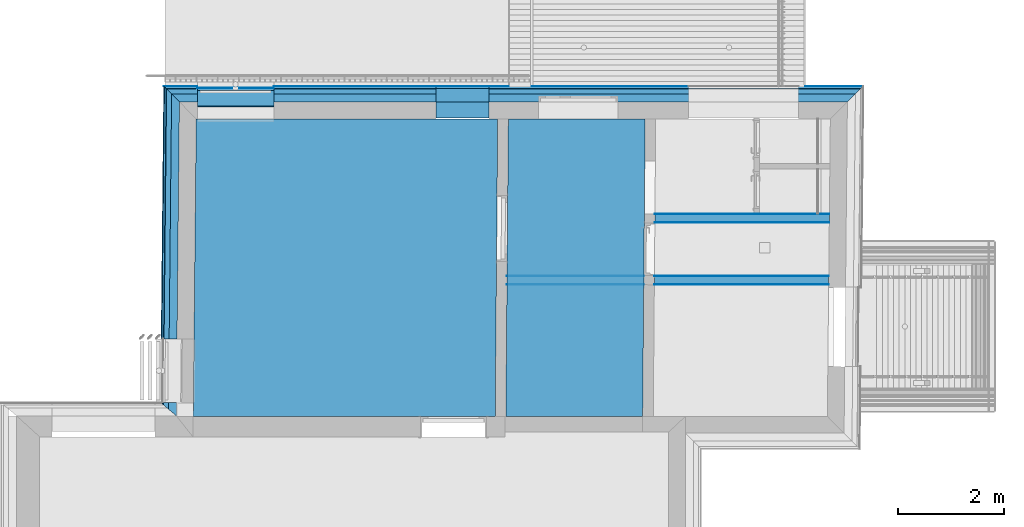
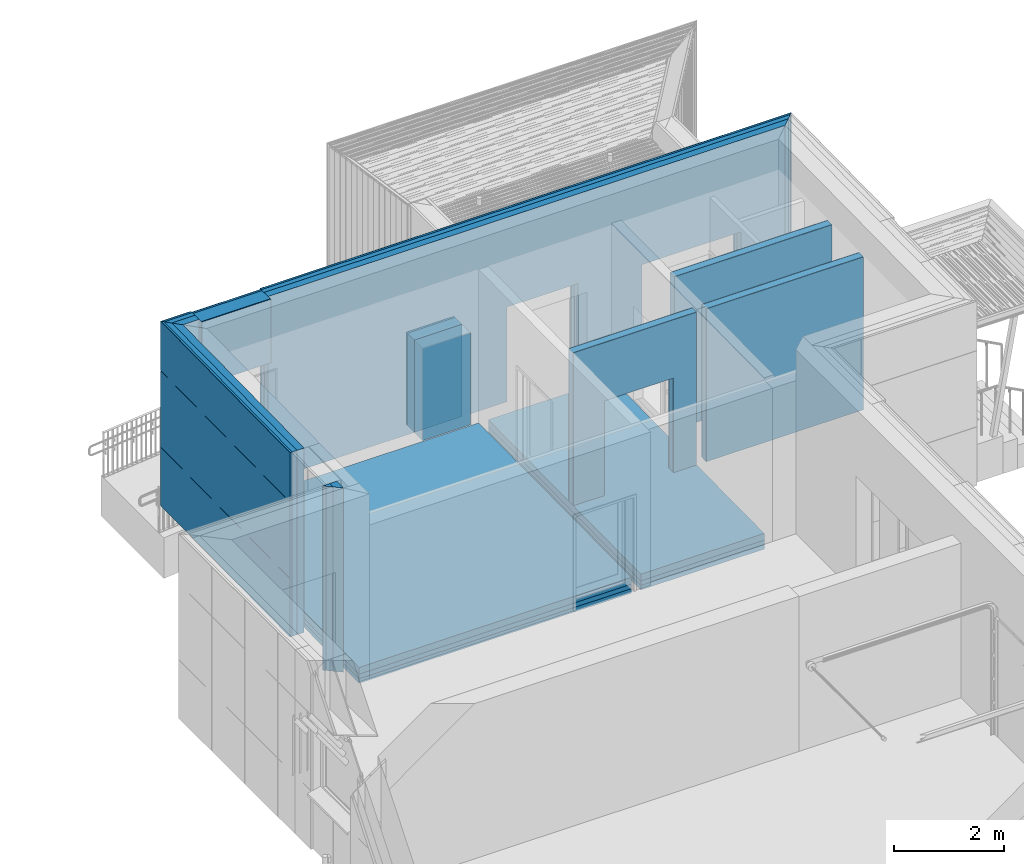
# One storey, part 53 of 418: 31 building element parts, 27 openings, 9 elements without a shape of their own.
"""IFC2X3 building model written with IfcOpenShell, lengths in millimetres."""

from ifc_helpers import new_model, entity, si_unit, converted_unit, derived_unit, money_unit, direction, frame, origin_with_axes, origin_2d_with_axis, place, context, subcontext, project, spatial, polyline, rectangle, outline, extrude, material, type_object, element, aggregate, save


model = new_model("IFC2X3")

# Units and contexts
model_context = context("Model", 3, precision=0.01, world=origin_with_axes(), true_north=direction((0.0, 1.0)))
body_context = subcontext(model_context, "Body", "Model", "MODEL_VIEW")
ifc_project = project(units=[si_unit("LENGTHUNIT", "METRE", prefix="MILLI"), si_unit("AREAUNIT", "SQUARE_METRE"), si_unit("VOLUMEUNIT", "CUBIC_METRE"), converted_unit("PLANEANGLEUNIT", "DEGREE", entity("IfcPlaneAngleMeasure", 0.0174532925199), si_unit("PLANEANGLEUNIT", "RADIAN"), dimensions=[0, 0, 0, 0, 0, 0, 0]), si_unit("SOLIDANGLEUNIT", "STERADIAN"), money_unit("EUR"), converted_unit("TIMEUNIT", "Year", entity("IfcTimeMeasure", 31556926.0), si_unit("TIMEUNIT", "SECOND"), dimensions=[0, 0, 1, 0, 0, 0, 0]), si_unit("MASSUNIT", "GRAM", prefix="KILO"), si_unit("THERMODYNAMICTEMPERATUREUNIT", "DEGREE_CELSIUS"), si_unit("LUMINOUSINTENSITYUNIT", "LUMEN"), si_unit("ENERGYUNIT", "JOULE", prefix="MEGA"), derived_unit("THERMALCONDUCTANCEUNIT", [(si_unit("POWERUNIT", "WATT"), 1), (si_unit("LENGTHUNIT", "METRE"), -1), (si_unit("THERMODYNAMICTEMPERATUREUNIT", "KELVIN"), -1)]), derived_unit("SPECIFICHEATCAPACITYUNIT", [(si_unit("ENERGYUNIT", "JOULE"), 1), (si_unit("MASSUNIT", "GRAM", prefix="KILO"), -1), (si_unit("THERMODYNAMICTEMPERATUREUNIT", "KELVIN"), -1)]), derived_unit("MASSDENSITYUNIT", [(si_unit("MASSUNIT", "GRAM", prefix="KILO"), 1), (si_unit("VOLUMEUNIT", "CUBIC_METRE"), -1)])], contexts=[model_context])

# Site, building, storey
site_placement = place(None, origin_with_axes())
site = spatial("IfcSite", under=ifc_project, at=site_placement, Name="Paldiski mnt 245/1, Tallinn, Harjumaa", CompositionType="COMPLEX")
building_placement = place(site_placement, origin_with_axes())
building = spatial("IfcBuilding", under=site, at=building_placement, Name="RKAS Hoone üldnimetus (kasutust iseloomustav) -> IFC Project Manager -> SOLIBRI", CompositionType="ELEMENT")
storey_placement = place(building_placement, origin_with_axes())
storey = spatial("IfcBuildingStorey", under=building, at=storey_placement, Name="Esimene korrus", CompositionType="ELEMENT", Elevation=0.0)

# Wall, openings, building element parts
wall_type_1 = type_object("IfcWallType", Name="VS-03C_uued_kihid 300", PredefinedType="NOTDEFINED")
wall_1_placement = place(storey_placement, frame((-59646.0974385, 36089.8287244, 0.0), z_axis=(0.0, 0.0, 1.0), x_axis=(1.0, 0.0, 0.0)))
wall_1 = element("IfcWall", 1, at=wall_1_placement, inside=storey, type_object=wall_type_1, Name="VS-03")
opening_1_placement = place(wall_1_placement, frame((2986.7901126, 0.0, 0.0), z_axis=(0.0, 0.0, 1.0), x_axis=(1.0, 0.0, 0.0)))
element("IfcOpeningElement", 2, at=opening_1_placement, cuts=wall_1, Name="Cembrit fassaadiplaadi vuuk", context=body_context, shape_type="SweptSolid", body=[
    extrude(outline(polyline([(-4.0, 0.0), (4.0, 0.0), (4.0, 4090.0), (-4.0, 4090.0), (-4.0, 0.0)])), frame((0.0, 292.0, 0.0), z_axis=(0.0, -1.0, 0.0), x_axis=(1.0, 0.0, 0.0)), (0.0, 0.0, -1.0), 308.0),
])
opening_2_placement = place(wall_1_placement, frame((4186.7901126, 0.0, 0.0), z_axis=(0.0, 0.0, 1.0), x_axis=(1.0, 0.0, 0.0)))
element("IfcOpeningElement", 3, at=opening_2_placement, cuts=wall_1, Name="Cembrit fassaadiplaadi vuuk", context=body_context, shape_type="SweptSolid", body=[
    extrude(outline(polyline([(-4.0, 0.0), (4.0, 0.0), (4.0, 4090.0), (-4.0, 4090.0), (-4.0, 0.0)])), frame((0.0, 292.0, 0.0), z_axis=(0.0, -1.0, 0.0), x_axis=(1.0, 0.0, 0.0)), (0.0, 0.0, -1.0), 308.0),
])
opening_3_placement = place(wall_1_placement, frame((5386.7901126, -1.27897692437e-10, 0.0), z_axis=(0.0, 0.0, 1.0), x_axis=(1.0, 0.0, 0.0)))
element("IfcOpeningElement", 4, at=opening_3_placement, cuts=wall_1, Name="Cembrit fassaadiplaadi vuuk", context=body_context, shape_type="SweptSolid", body=[
    extrude(outline(polyline([(-4.0, 0.0), (4.0, 0.0), (4.0, 4090.0), (-4.0, 4090.0), (-4.0, 0.0)])), frame((0.0, 292.0, 0.0), z_axis=(0.0, -1.0, 0.0), x_axis=(1.0, 0.0, 0.0)), (0.0, 0.0, -1.0), 308.0),
])
opening_4_placement = place(wall_1_placement, frame((6586.7901126, -1.56319401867e-10, 0.0), z_axis=(0.0, 0.0, 1.0), x_axis=(1.0, 0.0, 0.0)))
element("IfcOpeningElement", 5, at=opening_4_placement, cuts=wall_1, Name="Cembrit fassaadiplaadi vuuk", context=body_context, shape_type="SweptSolid", body=[
    extrude(outline(polyline([(-4.0, 0.0), (4.0, 0.0), (4.0, 4090.0), (-4.0, 4090.0), (-4.0, 0.0)])), frame((0.0, 292.0, 0.0), z_axis=(0.0, -1.0, 0.0), x_axis=(1.0, 0.0, 0.0)), (0.0, 0.0, -1.0), 308.0),
])
opening_5_placement = place(wall_1_placement, frame((7786.7901126, -1.84741111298e-10, 0.0), z_axis=(0.0, 0.0, 1.0), x_axis=(1.0, 0.0, 0.0)))
element("IfcOpeningElement", 6, at=opening_5_placement, cuts=wall_1, Name="Cembrit fassaadiplaadi vuuk", context=body_context, shape_type="SweptSolid", body=[
    extrude(outline(polyline([(-4.0, 0.0), (4.0, 0.0), (4.0, 4090.0), (-4.0, 4090.0), (-4.0, 0.0)])), frame((0.0, 292.0, 0.0), z_axis=(0.0, -1.0, 0.0), x_axis=(1.0, 0.0, 0.0)), (0.0, 0.0, -1.0), 308.0),
])
opening_6_placement = place(wall_1_placement, frame((8986.7901126, -2.20268248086e-10, 0.0), z_axis=(0.0, 0.0, 1.0), x_axis=(1.0, 0.0, 0.0)))
element("IfcOpeningElement", 7, at=opening_6_placement, cuts=wall_1, Name="Cembrit fassaadiplaadi vuuk", context=body_context, shape_type="SweptSolid", body=[
    extrude(outline(polyline([(-4.0, 0.0), (4.0, 0.0), (4.0, 4090.0), (-4.0, 4090.0), (-4.0, 0.0)])), frame((0.0, 292.0, 0.0), z_axis=(0.0, -1.0, 0.0), x_axis=(1.0, 0.0, 0.0)), (0.0, 0.0, -1.0), 308.0),
])
opening_7_placement = place(wall_1_placement, frame((10186.7901126, -2.48689957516e-10, 0.0), z_axis=(0.0, 0.0, 1.0), x_axis=(1.0, 0.0, 0.0)))
element("IfcOpeningElement", 8, at=opening_7_placement, cuts=wall_1, Name="Cembrit fassaadiplaadi vuuk", context=body_context, shape_type="SweptSolid", body=[
    extrude(outline(polyline([(-4.0, 0.0), (4.0, 0.0), (4.0, 4090.0), (-4.0, 4090.0), (-4.0, 0.0)])), frame((0.0, 292.0, 0.0), z_axis=(0.0, -1.0, 0.0), x_axis=(1.0, 0.0, 0.0)), (0.0, 0.0, -1.0), 308.0),
])
opening_8_placement = place(wall_1_placement, frame((11386.7901126, -2.77111666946e-10, 0.0), z_axis=(0.0, 0.0, 1.0), x_axis=(1.0, 0.0, 0.0)))
element("IfcOpeningElement", 9, at=opening_8_placement, cuts=wall_1, Name="Cembrit fassaadiplaadi vuuk", context=body_context, shape_type="SweptSolid", body=[
    extrude(outline(polyline([(-4.0, 0.0), (4.0, 0.0), (4.0, 4090.0), (-4.0, 4090.0), (-4.0, 0.0)])), frame((0.0, 292.0, 0.0), z_axis=(0.0, -1.0, 0.0), x_axis=(1.0, 0.0, 0.0)), (0.0, 0.0, -1.0), 308.0),
])
opening_9_placement = place(wall_1_placement, frame((12586.7901126, -3.05533376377e-10, 0.0), z_axis=(0.0, 0.0, 1.0), x_axis=(1.0, 0.0, 0.0)))
element("IfcOpeningElement", 10, at=opening_9_placement, cuts=wall_1, Name="Cembrit fassaadiplaadi vuuk", context=body_context, shape_type="SweptSolid", body=[
    extrude(outline(polyline([(-4.0, 0.0), (4.0, 0.0), (4.0, 4090.0), (-4.0, 4090.0), (-4.0, 0.0)])), frame((0.0, 292.0, 0.0), z_axis=(0.0, -1.0, 0.0), x_axis=(1.0, 0.0, 0.0)), (0.0, 0.0, -1.0), 308.0),
])
opening_10_placement = place(wall_1_placement, frame((6323.34573533, -1.56319401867e-10, 1298.0), z_axis=(0.0, 0.0, 1.0), x_axis=(1.0, 0.0, 0.0)))
element("IfcOpeningElement", 11, at=opening_10_placement, cuts=wall_1, Name="Cembrit fassaadiplaadi vuuk", context=body_context, shape_type="SweptSolid", body=[
    extrude(outline(polyline([(-6620.33643567, 0.0), (6620.33643567, 0.0), (6620.33643567, 8.0), (-6620.33643567, 8.0), (-6620.33643567, 0.0)])), frame((0.0, 292.0, 0.0), z_axis=(0.0, -1.0, 0.0), x_axis=(1.0, 0.0, 0.0)), (0.0, 0.0, -1.0), 308.0),
])
opening_11_placement = place(wall_1_placement, frame((6323.34573533, -1.56319401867e-10, 2990.0), z_axis=(0.0, 0.0, 1.0), x_axis=(1.0, 0.0, 0.0)))
element("IfcOpeningElement", 12, at=opening_11_placement, cuts=wall_1, Name="Cembrit fassaadiplaadi vuuk", context=body_context, shape_type="SweptSolid", body=[
    extrude(outline(polyline([(-6620.33643567, 0.0), (6620.33643567, 0.0), (6620.33643567, 8.0), (-6620.33643567, 8.0), (-6620.33643567, 0.0)])), frame((0.0, 292.0, 0.0), z_axis=(0.0, -1.0, 0.0), x_axis=(1.0, 0.0, 0.0)), (0.0, 0.0, -1.0), 308.0),
])
opening_12_placement = place(wall_1_placement, frame((10676.9765288, -2.55795384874e-10, -50.0), z_axis=(0.0, 0.0, 1.0), x_axis=(1.0, 0.0, 0.0)))
element("IfcOpeningElement", 13, at=opening_12_placement, cuts=wall_1, Name="Uks", context=body_context, shape_type="SweptSolid", body=[
    extrude(rectangle(XDim=2080.0, YDim=2100.0, at=origin_2d_with_axis()), frame((0.0, 2.55795384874e-10, 1050.0), z_axis=(0.0, 1.0, 0.0), x_axis=(1.0, 0.0, 0.0)), (0.0, 0.0, -1.0), 300.0),
    extrude(rectangle(XDim=2080.0, YDim=2100.0, at=origin_2d_with_axis()), frame((0.0, 2.55795384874e-10, 1050.0), z_axis=(0.0, -1.0, 0.0), x_axis=(1.0, 0.0, 0.0)), (0.0, 0.0, -1.0), 300.0),
])
opening_13_placement = place(wall_1_placement, frame((7546.97652884, -1.84741111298e-10, 0.0), z_axis=(0.0, 0.0, 1.0), x_axis=(1.0, 0.0, 0.0)))
element("IfcOpeningElement", 14, at=opening_13_placement, cuts=wall_1, Name="VU-05v", context=body_context, shape_type="SweptSolid", body=[
    extrude(rectangle(XDim=1500.0, YDim=2100.0, at=origin_2d_with_axis()), frame((0.0, 300.0, 1050.0), z_axis=(0.0, -1.0, 0.0), x_axis=(1.0, 0.0, 0.0)), (0.0, 0.0, 1.0), 900.0),
])
opening_14_placement = place(wall_1_placement, frame((5357.39992515, -1.27897692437e-10, -50.0), z_axis=(0.0, 0.0, 1.0), x_axis=(1.0, 0.0, 0.0)))
element("IfcOpeningElement", 15, at=opening_14_placement, cuts=wall_1, Name="Uks", context=body_context, shape_type="SweptSolid", body=[
    extrude(rectangle(XDim=1000.0, YDim=2100.0, at=origin_2d_with_axis()), frame((0.0, 1.27897692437e-10, 1050.0), z_axis=(0.0, 1.0, 0.0), x_axis=(1.0, 0.0, 0.0)), (0.0, 0.0, -1.0), 300.0),
    extrude(rectangle(XDim=1000.0, YDim=2100.0, at=origin_2d_with_axis()), frame((0.0, 1.27897692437e-10, 1050.0), z_axis=(0.0, -1.0, 0.0), x_axis=(1.0, 0.0, 0.0)), (0.0, 0.0, -1.0), 300.0),
])
opening_15_placement = place(wall_1_placement, frame((59646.0974385, -36089.8287244, 0.0), z_axis=(0.0, 0.0, 1.0), x_axis=(1.0, 0.0, 0.0)))
element("IfcOpeningElement", 16, at=opening_15_placement, cuts=wall_1, Name="AVA", ObjectType="OPENING", context=body_context, shape_type="SweptSolid", body=[
    extrude(rectangle(XDim=1450.0, YDim=4090.0, at=origin_2d_with_axis()), frame((-58584.3073581, 36089.8287244, 2045.0), z_axis=(0.0, -1.0, 0.0), x_axis=(1.0, 0.0, 0.0)), (0.0, 0.0, -1.0), 600.0),
])
ifc_material_1 = material(Name="Cembrit_C040")
building_element_part_1_placement = place(wall_1_placement, origin_with_axes())
building_element_part_1 = element("IfcBuildingElementPart", 17, at=building_element_part_1_placement, material=ifc_material_1, Name="Cembrit_C040", context=body_context, shape_type="SweptSolid", body=[
    extrude(outline(polyline([(-289.070948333, 292.0), (12935.6011098, 292.0), (12943.682171, 300.0), (-296.990700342, 300.0), (-289.070948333, 292.0)])), origin_with_axes(), (0.0, 0.0, 1.0), 4090.0),
])
ifc_material_2 = material(Name="VKR-06_Õhkvahe")
building_element_part_2_placement = place(wall_1_placement, origin_with_axes())
building_element_part_2 = element("IfcBuildingElementPart", 18, at=building_element_part_2_placement, material=ifc_material_2, Name="VKR-06_Õhkvahe", context=body_context, shape_type="SweptSolid", body=[
    extrude(outline(polyline([(-247.492250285, 250.0), (12893.1755383, 250.0), (12935.6011098, 292.0), (-289.070948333, 292.0), (-247.492250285, 250.0)])), origin_with_axes(), (0.0, 0.0, 1.0), 4090.0),
])
ifc_material_3 = material(Name="Kingspan Kooltherm")
building_element_part_3_placement = place(wall_1_placement, origin_with_axes())
building_element_part_3 = element("IfcBuildingElementPart", 19, at=building_element_part_3_placement, material=ifc_material_3, Name="Kingspan Kooltherm", context=body_context, shape_type="SweptSolid", body=[
    extrude(outline(polyline([(-148.495350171, 150.0), (12792.1622728, 150.0), (12893.1755383, 250.0), (-247.492250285, 250.0), (-148.495350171, 150.0)])), origin_with_axes(), (0.0, 0.0, 1.0), 4090.0),
])
building_element_part_4_placement = place(wall_1_placement, origin_with_axes())
building_element_part_4 = element("IfcBuildingElementPart", 20, at=building_element_part_4_placement, material=ifc_material_3, Name="Kingspan Kooltherm", context=body_context, shape_type="SweptSolid", body=[
    extrude(outline(polyline([(0.0, 0.0), (12640.6423746, 0.0), (12792.1622728, 150.0), (-148.495350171, 150.0), (0.0, 0.0)])), origin_with_axes(), (0.0, 0.0, 1.0), 4090.0),
])
aggregate(wall_1, [building_element_part_1, building_element_part_2, building_element_part_3, building_element_part_4])

# Slab, building element parts
slab_type = type_object("IfcSlabType", Name="AP-01 350", PredefinedType="NOTDEFINED")
slab_1_placement = place(storey_placement, frame((-53669.9544373, 30139.8287244, 0.0), z_axis=(0.0, 0.0, 1.0), x_axis=(1.0, 0.0, 0.0)))
slab_1 = element("IfcSlab", 21, at=slab_1_placement, inside=storey, type_object=slab_type, Name="AP-01", PredefinedType="NOTDEFINED")
ifc_material_4 = material(Name="EPS 200")
building_element_part_5_placement = place(slab_1_placement, origin_with_axes())
building_element_part_5 = element("IfcBuildingElementPart", 22, at=building_element_part_5_placement, material=ifc_material_4, Name="EPS 200", context=body_context, shape_type="SweptSolid", body=[
    extrude(outline(polyline([(0.0, 0.0), (47.1368172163, 5630.0), (-5659.35292082, 5630.0), (-5716.11364736, 1.38555833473e-10), (0.0, 0.0)])), frame((0.0, 0.0, -350.0), z_axis=(0.0, 0.0, 1.0), x_axis=(1.0, 0.0, 0.0)), (0.0, 0.0, 1.0), 100.0),
])
building_element_part_6_placement = place(slab_1_placement, origin_with_axes())
building_element_part_6 = element("IfcBuildingElementPart", 23, at=building_element_part_6_placement, material=ifc_material_4, Name="EPS 200", context=body_context, shape_type="SweptSolid", body=[
    extrude(outline(polyline([(0.0, 0.0), (47.1368172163, 5630.0), (-5659.35292082, 5630.0), (-5716.11364736, 1.38555833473e-10), (0.0, 0.0)])), frame((0.0, 0.0, -250.0), z_axis=(0.0, 0.0, 1.0), x_axis=(1.0, 0.0, 0.0)), (0.0, 0.0, 1.0), 100.0),
])
ifc_material_5 = material(Name="Kiudbetoon")
building_element_part_7_placement = place(slab_1_placement, origin_with_axes())
building_element_part_7 = element("IfcBuildingElementPart", 24, at=building_element_part_7_placement, material=ifc_material_5, Name="Kiudbetoon", context=body_context, shape_type="SweptSolid", body=[
    extrude(outline(polyline([(0.0, 0.0), (47.1368172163, 5630.0), (-5659.35292082, 5630.0), (-5716.11364736, 1.38555833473e-10), (0.0, 0.0)])), frame((0.0, 0.0, -150.0), z_axis=(0.0, 0.0, 1.0), x_axis=(1.0, 0.0, 0.0)), (0.0, 0.0, 1.0), 150.0),
])
aggregate(slab_1, [building_element_part_5, building_element_part_6, building_element_part_7])

# Wall, openings, building element parts
wall_type_2 = type_object("IfcWallType", Name="SS-04 170", PredefinedType="NOTDEFINED")
wall_2_placement = place(storey_placement, frame((-50859.1037261, 32630.2262574, 0.0), z_axis=(0.0, 0.0, 1.0), x_axis=(-1.0, 0.0, 0.0)))
wall_2 = element("IfcWall", 25, at=wall_2_placement, inside=storey, type_object=wall_type_2, Name="SS-04")
opening_16_placement = place(wall_2_placement, frame((1214.29343789, 0.0, 0.0), z_axis=(0.0, 0.0, 1.0), x_axis=(1.0, 0.0, 0.0)))
element("IfcOpeningElement", 26, at=opening_16_placement, cuts=wall_2, Name="Siseuks", context=body_context, shape_type="SweptSolid", body=[
    extrude(rectangle(XDim=1448.55250873, YDim=2100.0, at=origin_2d_with_axis()), frame((0.0, -170.0, 1050.0), z_axis=(0.0, 1.0, 0.0), x_axis=(1.0, 0.0, 0.0)), (0.0, 0.0, -1.0), 170.0),
    extrude(rectangle(XDim=1448.55250873, YDim=2100.0, at=origin_2d_with_axis()), frame((0.0, -170.0, 1050.0), z_axis=(0.0, -1.0, 0.0), x_axis=(1.0, 0.0, 0.0)), (0.0, 0.0, -1.0), 170.0),
])
opening_17_placement = place(wall_2_placement, frame((1214.29343789, 0.0, 0.0), z_axis=(0.0, 0.0, 1.0), x_axis=(1.0, 0.0, 0.0)))
element("IfcOpeningElement", 27, at=opening_17_placement, cuts=wall_2, Name="Siseuks", context=body_context, shape_type="SweptSolid", body=[
    extrude(rectangle(XDim=1448.55250873, YDim=2100.0, at=origin_2d_with_axis()), frame((0.0, -170.0, 1050.0), z_axis=(0.0, 1.0, 0.0), x_axis=(1.0, 0.0, 0.0)), (0.0, 0.0, -1.0), 170.0),
    extrude(rectangle(XDim=1448.55250873, YDim=2100.0, at=origin_2d_with_axis()), frame((0.0, -170.0, 1050.0), z_axis=(0.0, -1.0, 0.0), x_axis=(1.0, 0.0, 0.0)), (0.0, 0.0, -1.0), 170.0),
])
ifc_material_6 = material(Name="Krohv")
building_element_part_8_placement = place(wall_2_placement, origin_with_axes())
building_element_part_8 = element("IfcBuildingElementPart", 28, at=building_element_part_8_placement, material=ifc_material_6, Name="Krohv", context=body_context, shape_type="SweptSolid", body=[
    extrude(outline(polyline([(-0.0837082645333, -10.0), (2589.90928209, -10.0), (2589.99300645, 0.0), (1.60999675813e-05, 0.0), (-0.0837082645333, -10.0)])), origin_with_axes(), (0.0, 0.0, 1.0), 3391.80696097),
])
ifc_material_7 = material(Name="FIBO 5")
building_element_part_9_placement = place(wall_2_placement, origin_with_axes())
building_element_part_9 = element("IfcBuildingElementPart", 29, at=building_element_part_9_placement, material=ifc_material_7, Name="FIBO 5", context=body_context, shape_type="SweptSolid", body=[
    extrude(outline(polyline([(-1.3395737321, -160.0), (2588.65341662, -160.0), (2589.90928209, -10.0), (-0.0837082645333, -10.0), (-1.3395737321, -160.0)])), origin_with_axes(), (0.0, 0.0, 1.0), 3391.80696097),
])
building_element_part_10_placement = place(wall_2_placement, origin_with_axes())
building_element_part_10 = element("IfcBuildingElementPart", 30, at=building_element_part_10_placement, material=ifc_material_6, Name="Krohv", context=body_context, shape_type="SweptSolid", body=[
    extrude(outline(polyline([(-1.4232980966, -170.0), (2588.56969226, -170.0), (2588.65341662, -160.0), (-1.3395737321, -160.0), (-1.4232980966, -170.0)])), origin_with_axes(), (0.0, 0.0, 1.0), 3391.80696097),
])
aggregate(wall_2, [building_element_part_8, building_element_part_9, building_element_part_10])

# Wall, building element parts
wall_3_placement = place(storey_placement, frame((-47360.3504649, 32630.2262574, 0.0), z_axis=(0.0, 0.0, 1.0), x_axis=(-1.0, 0.0, 0.0)))
wall_3 = element("IfcWall", 31, at=wall_3_placement, inside=storey, type_object=wall_type_2, Name="SS-04")
building_element_part_11_placement = place(wall_3_placement, origin_with_axes())
building_element_part_11 = element("IfcBuildingElementPart", 32, at=building_element_part_11_placement, material=ifc_material_6, Name="Krohv", context=body_context, shape_type="SweptSolid", body=[
    extrude(outline(polyline([(-0.100818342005, -10.0), (3298.66254335, -9.99999999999), (3298.74626772, 0.0), (0.0, 0.0), (-0.100818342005, -10.0)])), origin_with_axes(), (0.0, 0.0, 1.0), 3391.80696097),
])
building_element_part_12_placement = place(wall_3_placement, origin_with_axes())
building_element_part_12 = element("IfcBuildingElementPart", 33, at=building_element_part_12_placement, material=ifc_material_7, Name="FIBO 5", context=body_context, shape_type="SweptSolid", body=[
    extrude(outline(polyline([(-1.61309347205, -160.0), (3297.40667789, -160.0), (3298.66254335, -9.99999999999), (-0.100818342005, -10.0), (-1.61309347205, -160.0)])), origin_with_axes(), (0.0, 0.0, 1.0), 3391.80696097),
])
building_element_part_13_placement = place(wall_3_placement, origin_with_axes())
building_element_part_13 = element("IfcBuildingElementPart", 34, at=building_element_part_13_placement, material=ifc_material_6, Name="Krohv", context=body_context, shape_type="SweptSolid", body=[
    extrude(outline(polyline([(-1.71391181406, -170.0), (3297.32295352, -170.0), (3297.40667789, -160.0), (-1.61309347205, -160.0), (-1.71391181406, -170.0)])), origin_with_axes(), (0.0, 0.0, 1.0), 3391.80696097),
])
aggregate(wall_3, [building_element_part_11, building_element_part_12, building_element_part_13])

wall_4_placement = place(storey_placement, frame((-47348.5587267, 33799.8287244, 0.0), z_axis=(0.0, 0.0, 1.0), x_axis=(-1.0, 0.0, 0.0)))
wall_4 = element("IfcWall", 35, at=wall_4_placement, inside=storey, type_object=wall_type_2, Name="SS-04")
building_element_part_14_placement = place(wall_4_placement, origin_with_axes())
building_element_part_14 = element("IfcBuildingElementPart", 36, at=building_element_part_14_placement, material=ifc_material_6, Name="Krohv", context=body_context, shape_type="SweptSolid", body=[
    extrude(outline(polyline([(-0.100818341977, -10.0), (3300.66185918, -10.0), (3300.74558354, 0.0), (0.0, 0.0), (-0.100818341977, -10.0)])), origin_with_axes(), (0.0, 0.0, 1.0), 3391.80696097),
])
building_element_part_15_placement = place(wall_4_placement, origin_with_axes())
building_element_part_15 = element("IfcBuildingElementPart", 37, at=building_element_part_15_placement, material=ifc_material_7, Name="FIBO 5", context=body_context, shape_type="SweptSolid", body=[
    extrude(outline(polyline([(-1.61309347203, -160.0), (3299.40599371, -160.0), (3300.66185918, -10.0), (-0.100818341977, -10.0), (-1.61309347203, -160.0)])), origin_with_axes(), (0.0, 0.0, 1.0), 3391.80696097),
])
building_element_part_16_placement = place(wall_4_placement, origin_with_axes())
building_element_part_16 = element("IfcBuildingElementPart", 38, at=building_element_part_16_placement, material=ifc_material_6, Name="Krohv", context=body_context, shape_type="SweptSolid", body=[
    extrude(outline(polyline([(-1.71391181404, -170.0), (3299.32226935, -170.0), (3299.40599371, -160.0), (-1.61309347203, -160.0), (-1.71391181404, -170.0)])), origin_with_axes(), (0.0, 0.0, 1.0), 3391.80696097),
])
aggregate(wall_4, [building_element_part_14, building_element_part_15, building_element_part_16])

# Slab, building element parts
slab_2_placement = place(storey_placement, frame((-53469.9474154, 30139.8287143, 0.0), z_axis=(0.0, 0.0, 1.0), x_axis=(1.0, 0.0, 0.0)))
slab_2 = element("IfcSlab", 39, at=slab_2_placement, inside=storey, type_object=slab_type, Name="AP-01", PredefinedType="NOTDEFINED")
building_element_part_17_placement = place(slab_2_placement, origin_with_axes())
building_element_part_17 = element("IfcBuildingElementPart", 40, at=building_element_part_17_placement, material=ifc_material_4, Name="EPS 200", context=body_context, shape_type="SweptSolid", body=[
    extrude(outline(polyline([(0.0, 0.0), (2589.99299895, 3.53888651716e-05), (2637.12981151, 5629.99999677), (47.1368125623, 5629.99996138), (0.0, 0.0)])), frame((0.0, 0.0, -350.0), z_axis=(0.0, 0.0, 1.0), x_axis=(1.0, 0.0, 0.0)), (0.0, 0.0, 1.0), 100.0),
])
building_element_part_18_placement = place(slab_2_placement, origin_with_axes())
building_element_part_18 = element("IfcBuildingElementPart", 41, at=building_element_part_18_placement, material=ifc_material_4, Name="EPS 200", context=body_context, shape_type="SweptSolid", body=[
    extrude(outline(polyline([(0.0, 0.0), (2589.99299895, 3.53888651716e-05), (2637.12981151, 5629.99999677), (47.1368125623, 5629.99996138), (0.0, 0.0)])), frame((0.0, 0.0, -250.0), z_axis=(0.0, 0.0, 1.0), x_axis=(1.0, 0.0, 0.0)), (0.0, 0.0, 1.0), 100.0),
])
building_element_part_19_placement = place(slab_2_placement, origin_with_axes())
building_element_part_19 = element("IfcBuildingElementPart", 42, at=building_element_part_19_placement, material=ifc_material_5, Name="Kiudbetoon", context=body_context, shape_type="SweptSolid", body=[
    extrude(outline(polyline([(0.0, 0.0), (2589.99299895, 3.53888651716e-05), (2637.12981151, 5629.99999677), (47.1368125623, 5629.99996138), (0.0, 0.0)])), frame((0.0, 0.0, -150.0), z_axis=(0.0, 0.0, 1.0), x_axis=(1.0, 0.0, 0.0)), (0.0, 0.0, 1.0), 150.0),
])
aggregate(slab_2, [building_element_part_17, building_element_part_18, building_element_part_19])

# Wall, openings, building element parts
wall_type_3 = type_object("IfcWallType", Name="VS-05D_uued_kihid 370", PredefinedType="NOTDEFINED")
wall_5_placement = place(storey_placement, frame((-57859.3073259, 35989.8286373, 0.0), z_axis=(0.0, 0.0, 1.0), x_axis=(-1.0, 0.0, 0.0)))
wall_5 = element("IfcWall", 43, at=wall_5_placement, inside=storey, type_object=wall_type_3, Name="VS-05")
opening_18_placement = place(wall_5_placement, frame((725.0, 0.0, 980.0), z_axis=(0.0, 0.0, 1.0), x_axis=(1.0, 0.0, 0.0)))
element("IfcOpeningElement", 44, at=opening_18_placement, cuts=wall_5, Name="A-06", context=body_context, shape_type="SweptSolid", body=[
    extrude(rectangle(XDim=1450.0, YDim=1700.0, at=origin_2d_with_axis()), frame((0.0, -220.0, 850.0), z_axis=(0.0, 1.0, 0.0), x_axis=(-1.0, 0.0, 0.0)), (0.0, 0.0, 1.0), 590.0),
    extrude(rectangle(XDim=1450.0, YDim=1700.0, at=origin_2d_with_axis()), frame((0.0, -220.0, 850.0), z_axis=(0.0, -1.0, 0.0), x_axis=(-1.0, 0.0, 0.0)), (0.0, 0.0, 1.0), 520.0),
    extrude(rectangle(XDim=1450.0, YDim=1700.0, at=origin_2d_with_axis()), frame((0.0, 0.0, 850.0), z_axis=(0.0, 1.0, 0.0), x_axis=(-1.0, 0.0, 0.0)), (0.0, 0.0, 1.0), 520.0),
    extrude(rectangle(XDim=1450.0, YDim=1708.0, at=origin_2d_with_axis()), frame((0.0, -370.0, 846.0), z_axis=(0.0, -1.0, 0.0), x_axis=(-1.0, 0.0, 0.0)), (0.0, 0.0, 1.0), 520.0),
])
opening_19_placement = place(wall_5_placement, frame((725.0, 0.0, 0.0), z_axis=(0.0, 0.0, 1.0), x_axis=(1.0, 0.0, 0.0)))
element("IfcOpeningElement", 45, at=opening_19_placement, cuts=wall_5, Name="Cembrit fassaadiplaadi vuuk", context=body_context, shape_type="SweptSolid", body=[
    extrude(outline(polyline([(-3.99999999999, 0.0), (4.0, 0.0), (4.0, 4090.0), (-3.99999999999, 4090.0), (-3.99999999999, 0.0)])), frame((0.0, -362.0, 0.0), z_axis=(0.0, 1.0, 0.0), x_axis=(-1.0, 0.0, 0.0)), (0.0, 0.0, -1.0), 378.0),
])
ifc_material_8 = material(Name="Cembrit_C060")
building_element_part_20_placement = place(wall_5_placement, origin_with_axes())
building_element_part_20 = element("IfcBuildingElementPart", 46, at=building_element_part_20_placement, material=ifc_material_8, Name="Cembrit_C060", context=body_context, shape_type="SweptSolid", body=[
    extrude(outline(polyline([(0.0, -370.0), (1450.0, -370.0), (1450.0, -362.0), (0.0, -362.0), (0.0, -370.0)])), origin_with_axes(), (0.0, 0.0, 1.0), 4090.0),
])
building_element_part_21_placement = place(wall_5_placement, origin_with_axes())
building_element_part_21 = element("IfcBuildingElementPart", 47, at=building_element_part_21_placement, material=ifc_material_2, Name="VKR-06_Õhkvahe", context=body_context, shape_type="SweptSolid", body=[
    extrude(outline(polyline([(0.0, -362.0), (1450.0, -362.0), (1450.0, -320.0), (0.0, -320.0), (0.0, -362.0)])), origin_with_axes(), (0.0, 0.0, 1.0), 4090.0),
])
building_element_part_22_placement = place(wall_5_placement, origin_with_axes())
building_element_part_22 = element("IfcBuildingElementPart", 48, at=building_element_part_22_placement, material=ifc_material_3, Name="Kingspan Kooltherm", context=body_context, shape_type="SweptSolid", body=[
    extrude(outline(polyline([(0.0, -320.0), (1450.0, -320.0), (1450.0, -20.0), (0.0, -20.0), (0.0, -320.0)])), origin_with_axes(), (0.0, 0.0, 1.0), 4090.0),
])
ifc_material_9 = material(Name="Tasanduskrohv")
building_element_part_23_placement = place(wall_5_placement, origin_with_axes())
building_element_part_23 = element("IfcBuildingElementPart", 49, at=building_element_part_23_placement, material=ifc_material_9, Name="Tasanduskrohv", context=body_context, shape_type="SweptSolid", body=[
    extrude(outline(polyline([(0.0, -20.0), (1450.0, -20.0), (1450.0, 0.0), (0.0, 0.0), (0.0, -20.0)])), origin_with_axes(), (0.0, 0.0, 1.0), 4090.0),
])
aggregate(wall_5, [building_element_part_20, building_element_part_21, building_element_part_22, building_element_part_23])

wall_type_4 = type_object("IfcWallType", Name="VS-06 600", PredefinedType="NOTDEFINED")
wall_6_placement = place(storey_placement, frame((-54788.6975133, 35789.8287244, 0.0), z_axis=(0.0, 0.0, 1.0), x_axis=(1.0, 0.0, 0.0)))
wall_6 = element("IfcWall", 50, at=wall_6_placement, inside=storey, type_object=wall_type_4, Name="VS-06")
opening_20_placement = place(wall_6_placement, frame((529.390187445, 0.0, 0.0), z_axis=(0.0, 0.0, 1.0), x_axis=(1.0, 0.0, 0.0)))
element("IfcOpeningElement", 51, at=opening_20_placement, cuts=wall_6, Name="Cembrit fassaadiplaadi vuuk", context=body_context, shape_type="SweptSolid", body=[
    extrude(outline(polyline([(-4.0, 0.0), (4.0, 0.0), (4.0, 4090.0), (-4.0, 4090.0), (-4.0, 0.0)])), frame((0.0, 592.0, 0.0), z_axis=(0.0, 1.0, 0.0), x_axis=(-1.0, 0.0, 0.0)), (0.0, 0.0, 1.0), 608.0),
])
opening_21_placement = place(wall_6_placement, frame((500.0, 0.0, 1298.0), z_axis=(0.0, 0.0, 1.0), x_axis=(1.0, 0.0, 0.0)))
element("IfcOpeningElement", 52, at=opening_21_placement, cuts=wall_6, Name="Cembrit fassaadiplaadi vuuk", context=body_context, shape_type="SweptSolid", body=[
    extrude(outline(polyline([(-500.0, 0.0), (500.0, 0.0), (500.0, 8.0), (-500.0, 8.0), (-500.0, 0.0)])), frame((0.0, 592.0, 0.0), z_axis=(0.0, 1.0, 0.0), x_axis=(-1.0, 0.0, 0.0)), (0.0, 0.0, 1.0), 608.0),
])
ifc_material_10 = material(Name="BAUROC CLASSIC 3 MPa kergplokk")
building_element_part_24_placement = place(wall_6_placement, origin_with_axes())
building_element_part_24 = element("IfcBuildingElementPart", 53, at=building_element_part_24_placement, material=ifc_material_10, Name="BAUROC CLASSIC 3 MPa kergplokk", context=body_context, shape_type="SweptSolid", body=[
    extrude(outline(polyline([(0.0, 0.0), (1000.0, 0.0), (1000.0, 300.0), (0.0, 300.0), (0.0, 0.0)])), origin_with_axes(), (0.0, 0.0, 1.0), 2050.0),
])
building_element_part_25_placement = place(wall_6_placement, origin_with_axes())
building_element_part_25 = element("IfcBuildingElementPart", 54, at=building_element_part_25_placement, material=ifc_material_3, Name="Kingspan Kooltherm", context=body_context, shape_type="SweptSolid", body=[
    extrude(outline(polyline([(0.0, 300.0), (1000.0, 300.0), (1000.0, 550.0), (0.0, 550.0), (0.0, 300.0)])), origin_with_axes(), (0.0, 0.0, 1.0), 2050.0),
])
building_element_part_26_placement = place(wall_6_placement, origin_with_axes())
building_element_part_26 = element("IfcBuildingElementPart", 55, at=building_element_part_26_placement, material=ifc_material_2, Name="VKR-06_Õhkvahe", context=body_context, shape_type="SweptSolid", body=[
    extrude(outline(polyline([(0.0, 550.0), (1000.0, 550.0), (1000.0, 592.0), (0.0, 592.0), (0.0, 550.0)])), origin_with_axes(), (0.0, 0.0, 1.0), 2050.0),
])
building_element_part_27_placement = place(wall_6_placement, origin_with_axes())
building_element_part_27 = element("IfcBuildingElementPart", 56, at=building_element_part_27_placement, material=ifc_material_1, Name="Cembrit_C040", context=body_context, shape_type="SweptSolid", body=[
    extrude(outline(polyline([(0.0, 592.0), (1000.0, 592.0), (1000.0, 600.0), (0.0, 600.0), (0.0, 592.0)])), origin_with_axes(), (0.0, 0.0, 1.0), 2050.0),
])
aggregate(wall_6, [building_element_part_24, building_element_part_25, building_element_part_26, building_element_part_27])

wall_type_5 = type_object("IfcWallType", Name="VS-03D_uued_kihid 300", PredefinedType="NOTDEFINED")
wall_7_placement = place(storey_placement, frame((-59705.983444, 30149.8287244, 0.0), z_axis=(0.0, 0.0, 1.0), x_axis=(0.0100813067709, 0.999949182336, 0.0)))
wall_7 = element("IfcWall", 57, at=wall_7_placement, inside=storey, type_object=wall_type_5, Name="VS-03")
opening_22_placement = place(wall_7_placement, frame((2653.32755518, 0.0, 0.0), z_axis=(0.0, 0.0, 1.0), x_axis=(1.0, 0.0, 0.0)))
element("IfcOpeningElement", 58, at=opening_22_placement, cuts=wall_7, Name="Cembrit fassaadiplaadi vuuk", context=body_context, shape_type="SweptSolid", body=[
    extrude(outline(polyline([(-3.99999999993, 0.0), (4.00000000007, 0.0), (4.00000000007, 4090.0), (-3.99999999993, 4090.0), (-3.99999999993, 0.0)])), frame((0.0, 292.0, 0.0), z_axis=(0.0, -1.0, 0.0), x_axis=(1.0, 0.0, 0.0)), (0.0, 0.0, -1.0), 308.0),
])
opening_23_placement = place(wall_7_placement, frame((3853.38853963, 0.0, 0.0), z_axis=(0.0, 0.0, 1.0), x_axis=(1.0, 0.0, 0.0)))
element("IfcOpeningElement", 59, at=opening_23_placement, cuts=wall_7, Name="Cembrit fassaadiplaadi vuuk", context=body_context, shape_type="SweptSolid", body=[
    extrude(outline(polyline([(-3.99999999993, 0.0), (4.00000000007, 0.0), (4.00000000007, 4090.0), (-3.99999999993, 4090.0), (-3.99999999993, 0.0)])), frame((0.0, 292.0, 0.0), z_axis=(0.0, -1.0, 0.0), x_axis=(1.0, 0.0, 0.0)), (0.0, 0.0, -1.0), 308.0),
])
opening_24_placement = place(wall_7_placement, frame((5053.44952409, 0.0, 0.0), z_axis=(0.0, 0.0, 1.0), x_axis=(1.0, 0.0, 0.0)))
element("IfcOpeningElement", 60, at=opening_24_placement, cuts=wall_7, Name="Cembrit fassaadiplaadi vuuk", context=body_context, shape_type="SweptSolid", body=[
    extrude(outline(polyline([(-3.99999999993, 0.0), (4.00000000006, 0.0), (4.00000000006, 4090.0), (-3.99999999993, 4090.0), (-3.99999999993, 0.0)])), frame((0.0, 292.0, 0.0), z_axis=(0.0, -1.0, 0.0), x_axis=(1.0, 0.0, 0.0)), (0.0, 0.0, -1.0), 308.0),
])
opening_25_placement = place(wall_7_placement, frame((3845.04766526, 0.0, 2990.0), z_axis=(0.0, 0.0, 1.0), x_axis=(1.0, 0.0, 0.0)))
element("IfcOpeningElement", 61, at=opening_25_placement, cuts=wall_7, Name="Cembrit fassaadiplaadi vuuk", context=body_context, shape_type="SweptSolid", body=[
    extrude(outline(polyline([(-2392.24490735, 0.0), (2392.24490735, 0.0), (2392.24490735, 8.0), (-2392.24490735, 8.0), (-2392.24490735, 0.0)])), frame((0.0, 292.0, 0.0), z_axis=(0.0, -1.0, 0.0), x_axis=(1.0, 0.0, 0.0)), (0.0, 0.0, -1.0), 308.0),
])
opening_26_placement = place(wall_7_placement, frame((3845.04766526, 0.0, 1298.0), z_axis=(0.0, 0.0, 1.0), x_axis=(1.0, 0.0, 0.0)))
element("IfcOpeningElement", 62, at=opening_26_placement, cuts=wall_7, Name="Cembrit fassaadiplaadi vuuk", context=body_context, shape_type="SweptSolid", body=[
    extrude(outline(polyline([(-2392.24490735, 0.0), (2392.24490735, 0.0), (2392.24490735, 8.0), (-2392.24490735, 8.0), (-2392.24490735, 0.0)])), frame((0.0, 292.0, 0.0), z_axis=(0.0, -1.0, 0.0), x_axis=(1.0, 0.0, 0.0)), (0.0, 0.0, -1.0), 308.0),
])
opening_27_placement = place(wall_7_placement, frame((-29546.3822453, -60006.8989978, 0.0), z_axis=(0.0, 0.0, 1.0), x_axis=(0.0100813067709, -0.999949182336, 0.0)))
element("IfcOpeningElement", 63, at=opening_27_placement, cuts=wall_7, Name="AVA", ObjectType="OPENING", context=body_context, shape_type="SweptSolid", body=[
    extrude(rectangle(XDim=1205.53235728, YDim=4140.0001049, at=origin_2d_with_axis()), frame((-59697.4096952, 31000.2455707, 2019.99994755), z_axis=(0.999949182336, -0.0100813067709, 0.0), x_axis=(0.0100813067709, 0.999949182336, 0.0)), (0.0, 0.0, -1.0), 674.540213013),
])
ifc_material_11 = material(Name="Cembrit_C020")
building_element_part_28_placement = place(wall_7_placement, origin_with_axes())
building_element_part_28 = element("IfcBuildingElementPart", 64, at=building_element_part_28_placement, material=ifc_material_11, Name="Cembrit_C020", context=body_context, shape_type="SweptSolid", body=[
    extrude(outline(polyline([(240.401808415, 292.0), (6229.3728206, 292.0), (6237.29257261, 300.0), (246.98815933, 300.0), (240.401808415, 292.0)])), origin_with_axes(), (0.0, 0.0, 1.0), 4090.0),
])
building_element_part_29_placement = place(wall_7_placement, origin_with_axes())
building_element_part_29 = element("IfcBuildingElementPart", 65, at=building_element_part_29_placement, material=ifc_material_2, Name="VKR-06_Õhkvahe", context=body_context, shape_type="SweptSolid", body=[
    extrude(outline(polyline([(205.823466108, 250.0), (6187.79412255, 250.0), (6229.3728206, 292.0), (240.401808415, 292.0), (205.823466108, 250.0)])), origin_with_axes(), (0.0, 0.0, 1.0), 4090.0),
])
building_element_part_30_placement = place(wall_7_placement, origin_with_axes())
building_element_part_30 = element("IfcBuildingElementPart", 66, at=building_element_part_30_placement, material=ifc_material_3, Name="Kingspan Kooltherm", context=body_context, shape_type="SweptSolid", body=[
    extrude(outline(polyline([(123.494079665, 150.0), (6088.79722244, 150.0), (6187.79412255, 250.0), (205.823466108, 250.0), (123.494079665, 150.0)])), origin_with_axes(), (0.0, 0.0, 1.0), 4090.0),
])
building_element_part_31_placement = place(wall_7_placement, origin_with_axes())
building_element_part_31 = element("IfcBuildingElementPart", 67, at=building_element_part_31_placement, material=ifc_material_3, Name="Kingspan Kooltherm", context=body_context, shape_type="SweptSolid", body=[
    extrude(outline(polyline([(0.0, 0.0), (5940.30187227, 0.0), (6088.79722244, 150.0), (123.494079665, 150.0), (0.0, 0.0)])), origin_with_axes(), (0.0, 0.0, 1.0), 4090.0),
])
aggregate(wall_7, [building_element_part_28, building_element_part_29, building_element_part_30, building_element_part_31])

save(model, "model.ifc")
